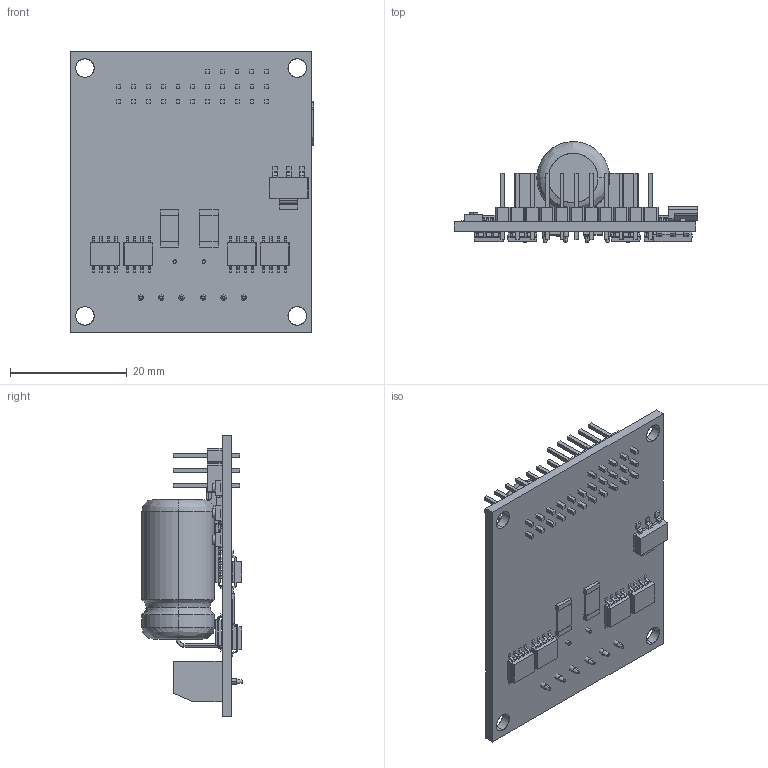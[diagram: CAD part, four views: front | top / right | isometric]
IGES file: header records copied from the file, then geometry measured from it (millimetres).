
Start section: SolidWorks IGES file using analytic representation for surfaces
Global section: file name: C:\Users\A Vinh\Desktop\MC5A-V5.IGS; native system: SolidWorks 2013; preprocessor: SolidWorks 2013; author: A Vinh; date: 150630.224837; units: millimetre
Bounding box: 41.74 x 17.25 x 48.29 mm (x, y, z)
Surface area: 9918 mm2 (no closed solid volume)
Topology: 0 solids, 0 shells, 2675 faces, 19402 edges, 19402 vertices
Faces by surface type: bspline 2023, revolution 652
